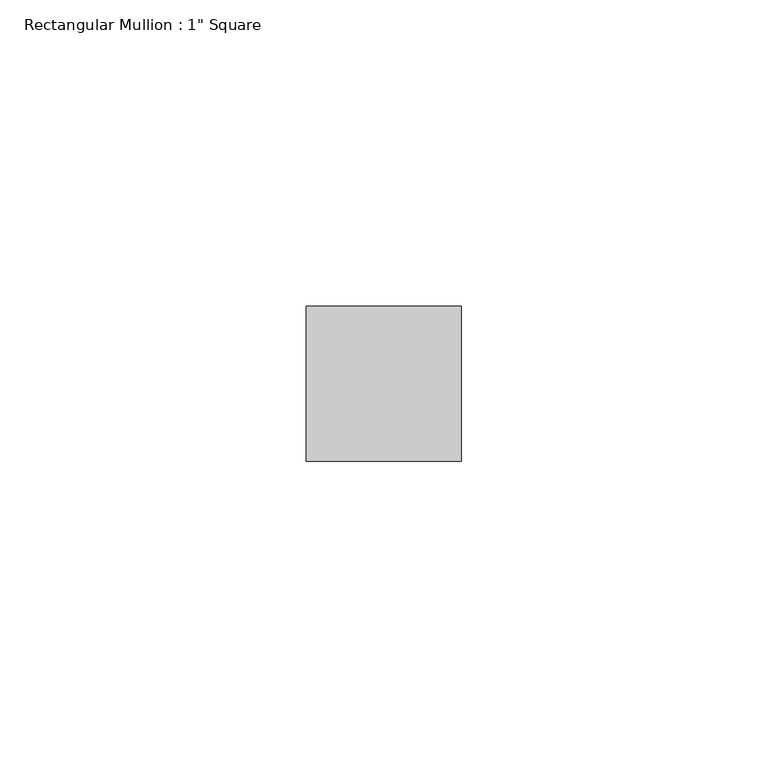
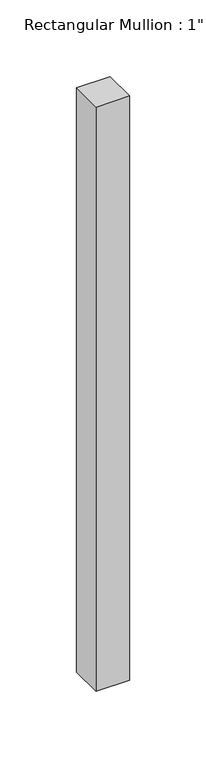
"""IFC4 building model written with IfcOpenShell, lengths in millimetres: member geometry."""

import ifcopenshell
import ifcopenshell.guid

model = None  # the IFC model being written
_history = None  # IfcOwnerHistory: only IFC2X3 demands one
_inside = {}  # id of a spatial element -> (the spatial element, [elements in it])
_under = {}  # id of a project, library or spatial element -> (it, [spatial elements below it])
_declared = {}  # id of a project -> (the project, [libraries it declares])
_typed = {}  # id of a type object -> (the type object, [elements of that type])
_made_of = {}  # id of a material, layer set ... -> (it, [elements and type objects made of it])


def new_model(schema):
    """Start an empty IFC model of exactly this schema.

    Asked for "IFC4X3", IfcOpenShell would pick the latest addendum, in which some entities
    have other attributes; the version numbers below select the first issue.
    IFC2X3 requires an IfcOwnerHistory on every rooted entity: one is made here for all.
    """
    global model, _history
    if schema == "IFC4X3":
        model = ifcopenshell.file(schema_version=(4, 3, 0, 0))
    else:
        model = ifcopenshell.file(schema=schema)
    _inside.clear()
    _under.clear()
    _declared.clear()
    _typed.clear()
    _made_of.clear()
    _history = None
    if model.schema == "IFC2X3":
        org = make("IfcOrganization", Name="unknown")
        user = make(
            "IfcPersonAndOrganization",
            ThePerson=make("IfcPerson", FamilyName="unknown"),
            TheOrganization=org,
        )
        app = make(
            "IfcApplication",
            ApplicationDeveloper=org,
            Version="unknown",
            ApplicationFullName="unknown",
            ApplicationIdentifier="unknown",
        )
        _history = make(
            "IfcOwnerHistory",
            OwningUser=user,
            OwningApplication=app,
            ChangeAction="ADDED",
            CreationDate=0,
        )
    return model


def make(cls, **values):
    """One entity of the class cls with the attributes given. An attribute that is None is left unset."""
    return model.create_entity(
        cls, **{name: value for name, value in values.items() if value is not None}
    )


def rooted(cls, **values):
    """An entity with a GlobalId (a new one), such as an element, a storey or a relation."""
    return make(cls, GlobalId=ifcopenshell.guid.new(), OwnerHistory=_history, **values)


def si_unit(unit_type, name, prefix=None):
    """IfcSIUnit, for example si_unit("LENGTHUNIT", "METRE", prefix="MILLI")."""
    return make("IfcSIUnit", UnitType=unit_type, Prefix=prefix, Name=name)


def assignment(units):
    """IfcUnitAssignment: the units of a project."""
    return None if units is None else make("IfcUnitAssignment", Units=units)


def point(xyz):
    """IfcCartesianPoint."""
    return None if xyz is None else make("IfcCartesianPoint", Coordinates=xyz)


def direction(xyz):
    """IfcDirection."""
    return None if xyz is None else make("IfcDirection", DirectionRatios=xyz)


def frame(location, z_axis=None, x_axis=None):
    """IfcAxis2Placement3D, a coordinate frame: its origin and axes. An axis left out is left unset."""
    return make(
        "IfcAxis2Placement3D",
        Location=point(location),
        Axis=direction(z_axis),
        RefDirection=direction(x_axis),
    )


def origin():
    """The frame at (0, 0, 0) with its axes left unset."""
    return frame((0.0, 0.0, 0.0))


def place(relative_to, where):
    """IfcLocalPlacement: puts the frame where relative to a parent placement (None: the world)."""
    return make(
        "IfcLocalPlacement", PlacementRelTo=relative_to, RelativePlacement=where
    )


def context(
    kind, dimensions, precision=None, world=None, true_north=None, identifier=None
):
    """IfcGeometricRepresentationContext, for example the 3D "Model" context."""
    return make(
        "IfcGeometricRepresentationContext",
        ContextIdentifier=identifier,
        ContextType=kind,
        CoordinateSpaceDimension=dimensions,
        Precision=precision,
        WorldCoordinateSystem=world,
        TrueNorth=true_north,
    )


def project(units=None, contexts=None):
    """IfcProject with its units and contexts."""
    return rooted(
        "IfcProject",
        Name="project",
        RepresentationContexts=contexts,
        UnitsInContext=assignment(units),
    )


def spatial(cls, under=None, at=None, **own):
    """A site, building, storey or space (cls), placed at a placement, below another one or the project."""
    s = rooted(cls, ObjectPlacement=at, **own)
    if under is not None:
        _under.setdefault(under.id(), (under, []))[1].append(s)
    return s


def polyline(points):
    """IfcPolyline through the points."""
    return make("IfcPolyline", Points=[point(p) for p in points])


def outline(outer, holes=None, kind="AREA"):
    """IfcArbitraryClosedProfileDef: a profile drawn as a closed curve; with holes, ...WithVoids."""
    if holes is None:
        return make("IfcArbitraryClosedProfileDef", ProfileType=kind, OuterCurve=outer)
    return make(
        "IfcArbitraryProfileDefWithVoids",
        ProfileType=kind,
        OuterCurve=outer,
        InnerCurves=holes,
    )


def extrude(swept, where, along, depth):
    """IfcExtrudedAreaSolid: the profile swept, set in the frame where, extruded along a direction by depth."""
    return make(
        "IfcExtrudedAreaSolid",
        SweptArea=swept,
        Position=where,
        ExtrudedDirection=direction(along),
        Depth=depth,
    )


def shape(context_of_items, identifier, shape_type, items):
    """IfcShapeRepresentation: the items that make up one representation, for example the "Body"."""
    return make(
        "IfcShapeRepresentation",
        ContextOfItems=context_of_items,
        RepresentationIdentifier=identifier,
        RepresentationType=shape_type,
        Items=items,
    )


def source(mapping_origin, context_of_items, identifier, shape_type, items):
    """IfcRepresentationMap: a shape defined once, which mapped items show again and again."""
    return make(
        "IfcRepresentationMap",
        MappingOrigin=mapping_origin,
        MappedRepresentation=shape(context_of_items, identifier, shape_type, items),
    )


def transform(
    local_origin,
    x_axis=None,
    y_axis=None,
    z_axis=None,
    scale=None,
    scale2=None,
    scale3=None,
    uniform=True,
):
    """IfcCartesianTransformationOperator3D, or its non-uniform kind. x_axis, y_axis, z_axis: its Axis1, 2, 3."""
    if uniform:
        return make(
            "IfcCartesianTransformationOperator3D",
            Axis1=direction(x_axis),
            Axis2=direction(y_axis),
            LocalOrigin=point(local_origin),
            Scale=scale,
            Axis3=direction(z_axis),
        )
    return make(
        "IfcCartesianTransformationOperator3DnonUniform",
        Axis1=direction(x_axis),
        Axis2=direction(y_axis),
        LocalOrigin=point(local_origin),
        Scale=scale,
        Axis3=direction(z_axis),
        Scale2=scale2,
        Scale3=scale3,
    )


def mapped(mapping_source, mapping_target):
    """IfcMappedItem: shows the shape of a source again, moved by a transform."""
    return make(
        "IfcMappedItem", MappingSource=mapping_source, MappingTarget=mapping_target
    )


def made_of(thing, what):
    """Note that an element or type object is made of a material, layer set ...; save() writes the relation."""
    if what is not None:
        _made_of.setdefault(what.id(), (what, []))[1].append(thing)
    return thing


def element(
    cls,
    number,
    at=None,
    inside=None,
    cuts=None,
    type_object=None,
    material=None,
    context=None,
    identifier="Body",
    shape_type=None,
    held_by="IfcProductDefinitionShape",
    body=None,
    shapes=None,
    **own,
):
    """One element of the class cls, such as IfcWall. Its Tag is "e" and its number.

    at: its placement. inside: the storey or other place that contains it. cuts: it is an
    opening in that element (IfcRelVoidsElement). A single representation is given by context,
    identifier, shape_type and body (its items); several are given by shapes. held_by: the class
    of the entity that holds the representations. save() writes the other relations.
    """
    e = rooted(cls, Tag="e%d" % number, ObjectPlacement=at, **own)
    if body is not None:
        shapes = [shape(context, identifier, shape_type, body)]
    if shapes is not None:
        e.Representation = make(held_by, Representations=shapes)
    if inside is not None:
        _inside.setdefault(inside.id(), (inside, []))[1].append(e)
    if cuts is not None:
        rooted(
            "IfcRelVoidsElement", RelatingBuildingElement=cuts, RelatedOpeningElement=e
        )
    if type_object is not None:
        _typed.setdefault(type_object.id(), (type_object, []))[1].append(e)
    return made_of(e, material)


def aggregate(whole, parts):
    """IfcRelAggregates: a whole, such as a stair, and the parts it consists of."""
    return rooted("IfcRelAggregates", RelatingObject=whole, RelatedObjects=parts)


def save(model, path):
    """Write the relations noted so far, then the file.

    IfcRelAggregates (storeys below a building ...), IfcRelContainedInSpatialStructure (elements
    in a storey), IfcRelDefinesByType, IfcRelAssociatesMaterial and IfcRelDeclares: one each for
    every whole, place, type object, material and project.
    """
    for whole, parts in _under.values():
        aggregate(whole, parts)
    for where, things in _inside.values():
        rooted(
            "IfcRelContainedInSpatialStructure",
            RelatedElements=things,
            RelatingStructure=where,
        )
    for kind, things in _typed.values():
        rooted("IfcRelDefinesByType", RelatedObjects=things, RelatingType=kind)
    for what, things in _made_of.values():
        rooted("IfcRelAssociatesMaterial", RelatedObjects=things, RelatingMaterial=what)
    for by, libraries in _declared.values():
        rooted("IfcRelDeclares", RelatingContext=by, RelatedDefinitions=libraries)
    model.write(path)


def member_df6d12cb(model_context):
    return source(origin(), model_context, "Body", "SweptSolid", [
        extrude(outline(polyline([(12.7, 12.7), (12.7, -12.7), (-12.7, -12.7), (-12.7, 12.7), (12.7, 12.7)])), frame((0.0, 0.0, -465.6550418), z_axis=(0.0, 0.0, 1.0), x_axis=(1.0, 0.0, 0.0)), (0.0, 0.0, 1.0), 465.6550418),
    ])


if __name__ == "__main__":
    model = new_model("IFC4")
    model_context = context("Model", 3, world=origin())
    ifc_project = project(units=[si_unit("LENGTHUNIT", "METRE", prefix="MILLI")], contexts=[model_context])
    site = spatial("IfcSite", under=ifc_project)
    building = spatial("IfcBuilding", under=site)
    placement = place(None, origin())
    member_shape = member_df6d12cb(model_context)
    element("IfcMember", 1, ObjectType="Rectangular Mullion : 1\" Square", at=placement, inside=building, context=model_context, shape_type="MappedRepresentation", body=[
        mapped(member_shape, transform((0.0, 0.0, 0.0), x_axis=(1.0, 0.0, 0.0), y_axis=(0.0, 1.0, 0.0), z_axis=(0.0, 0.0, 1.0))),
    ])
    save(model, "model.ifc")
